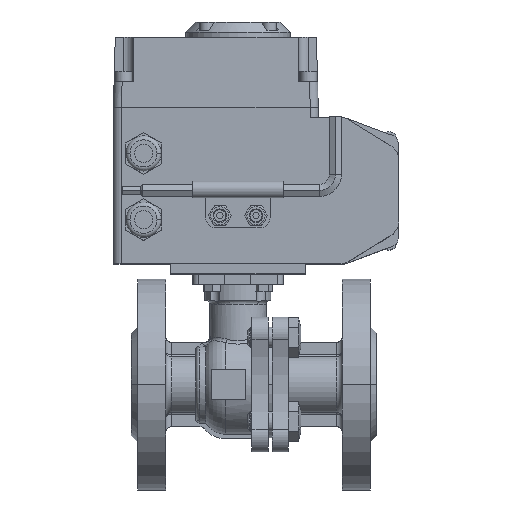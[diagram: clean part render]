
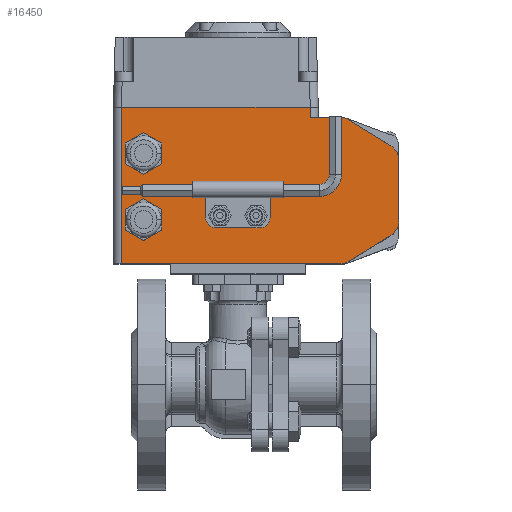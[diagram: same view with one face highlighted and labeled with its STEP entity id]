
A CAD part, top view. The second image highlights one B-rep face of the part: STEP entity #16450.
In plain terms, the highlighted planar face has unit normal (0, 0, 1).
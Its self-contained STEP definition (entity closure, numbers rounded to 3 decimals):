
#12117=CARTESIAN_POINT('',(61.749,28.5,0.));
#12118=DIRECTION('',(0.,0.,1.));
#12119=DIRECTION('',(0.521,0.853,0.));
#12120=AXIS2_PLACEMENT_3D('',#12117,#12118,#12119);
#12122=DIRECTION('',(-0.853,0.521,0.));
#12123=VECTOR('',#12122,24.905);
#12124=CARTESIAN_POINT('',(87.172,22.34,0.));
#12125=LINE('',#12124,#12123);
#12126=CARTESIAN_POINT('',(83.,15.513,0.));
#12127=DIRECTION('',(0.,0.,1.));
#12128=DIRECTION('',(1.,0.,0.));
#12129=AXIS2_PLACEMENT_3D('',#12126,#12127,#12128);
#12131=DIRECTION('',(0.,1.,0.));
#12132=VECTOR('',#12131,31.027);
#12133=CARTESIAN_POINT('',(91.,-15.513,0.));
#12134=LINE('',#12133,#12132);
#12135=CARTESIAN_POINT('',(83.,-15.513,0.));
#12136=DIRECTION('',(0.,0.,1.));
#12137=DIRECTION('',(0.521,-0.853,0.));
#12138=AXIS2_PLACEMENT_3D('',#12135,#12136,#12137);
#12140=DIRECTION('',(0.853,0.521,0.));
#12141=VECTOR('',#12140,24.905);
#12142=CARTESIAN_POINT('',(65.921,-35.326,0.));
#12143=LINE('',#12142,#12141);
#12144=CARTESIAN_POINT('',(61.749,-28.5,0.));
#12145=DIRECTION('',(0.,0.,1.));
#12146=DIRECTION('',(0.,-1.,0.));
#12147=AXIS2_PLACEMENT_3D('',#12144,#12145,#12146);
#12149=DIRECTION('',(1.,0.,0.));
#12150=VECTOR('',#12149,108.749);
#12151=CARTESIAN_POINT('',(-47.,-36.5,0.));
#12152=LINE('',#12151,#12150);
#12153=DIRECTION('',(-1.,0.,0.));
#12154=VECTOR('',#12153,94.);
#12155=CARTESIAN_POINT('',(47.,41.5,0.));
#12156=LINE('',#12155,#12154);
#12157=DIRECTION('',(0.,1.,0.));
#12158=VECTOR('',#12157,5.);
#12159=CARTESIAN_POINT('',(47.,36.5,0.));
#12160=LINE('',#12159,#12158);
#12161=DIRECTION('',(0.866,-0.5,0.));
#12162=VECTOR('',#12161,10.392);
#12163=CARTESIAN_POINT('',(-45.,-19.696,0.));
#12164=LINE('',#12163,#12162);
#12165=DIRECTION('',(0.866,0.5,0.));
#12166=VECTOR('',#12165,10.392);
#12167=CARTESIAN_POINT('',(-36.,-24.892,0.));
#12168=LINE('',#12167,#12166);
#12169=DIRECTION('',(0.,1.,0.));
#12170=VECTOR('',#12169,10.392);
#12171=CARTESIAN_POINT('',(-27.,-19.696,0.));
#12172=LINE('',#12171,#12170);
#12173=DIRECTION('',(-0.866,0.5,0.));
#12174=VECTOR('',#12173,10.392);
#12175=CARTESIAN_POINT('',(-27.,-9.304,0.));
#12176=LINE('',#12175,#12174);
#12177=DIRECTION('',(-0.866,-0.5,0.));
#12178=VECTOR('',#12177,10.392);
#12179=CARTESIAN_POINT('',(-36.,-4.108,0.));
#12180=LINE('',#12179,#12178);
#12181=DIRECTION('',(0.,-1.,0.));
#12182=VECTOR('',#12181,10.392);
#12183=CARTESIAN_POINT('',(-45.,-9.304,0.));
#12184=LINE('',#12183,#12182);
#12185=DIRECTION('',(0.866,-0.5,0.));
#12186=VECTOR('',#12185,10.392);
#12187=CARTESIAN_POINT('',(-45.,13.304,0.));
#12188=LINE('',#12187,#12186);
#12189=DIRECTION('',(0.866,0.5,0.));
#12190=VECTOR('',#12189,10.392);
#12191=CARTESIAN_POINT('',(-36.,8.108,0.));
#12192=LINE('',#12191,#12190);
#12193=DIRECTION('',(0.,1.,0.));
#12194=VECTOR('',#12193,10.392);
#12195=CARTESIAN_POINT('',(-27.,13.304,0.));
#12196=LINE('',#12195,#12194);
#12197=DIRECTION('',(-0.866,0.5,0.));
#12198=VECTOR('',#12197,10.392);
#12199=CARTESIAN_POINT('',(-27.,23.696,0.));
#12200=LINE('',#12199,#12198);
#12201=DIRECTION('',(-0.866,-0.5,0.));
#12202=VECTOR('',#12201,10.392);
#12203=CARTESIAN_POINT('',(-36.,28.892,0.));
#12204=LINE('',#12203,#12202);
#12205=DIRECTION('',(0.,-1.,0.));
#12206=VECTOR('',#12205,10.392);
#12207=CARTESIAN_POINT('',(-45.,23.696,0.));
#12208=LINE('',#12207,#12206);
#12209=CARTESIAN_POINT('',(2.,-12.5,0.));
#12210=DIRECTION('',(0.,0.,1.));
#12211=DIRECTION('',(1.,0.,0.));
#12212=AXIS2_PLACEMENT_3D('',#12209,#12210,#12211);
#12214=CARTESIAN_POINT('',(2.,-12.5,0.));
#12215=DIRECTION('',(0.,0.,1.));
#12216=DIRECTION('',(-1.,0.,0.));
#12217=AXIS2_PLACEMENT_3D('',#12214,#12215,#12216);
#12219=CARTESIAN_POINT('',(20.,-12.5,0.));
#12220=DIRECTION('',(0.,0.,1.));
#12221=DIRECTION('',(1.,0.,0.));
#12222=AXIS2_PLACEMENT_3D('',#12219,#12220,#12221);
#12224=CARTESIAN_POINT('',(20.,-12.5,0.));
#12225=DIRECTION('',(0.,0.,1.));
#12226=DIRECTION('',(-1.,0.,0.));
#12227=AXIS2_PLACEMENT_3D('',#12224,#12225,#12226);
#12703=DIRECTION('',(-1.,0.,0.));
#12704=VECTOR('',#12703,14.749);
#12705=CARTESIAN_POINT('',(61.749,36.5,0.));
#12706=LINE('',#12705,#12704);
#12784=DIRECTION('',(0.,-1.,0.));
#12785=VECTOR('',#12784,78.);
#12786=CARTESIAN_POINT('',(-47.,41.5,0.));
#12787=LINE('',#12786,#12785);
#15391=CARTESIAN_POINT('',(-47.,-36.5,0.));
#15393=VERTEX_POINT('',#15391);
#15396=CARTESIAN_POINT('',(-47.,41.5,0.));
#15398=VERTEX_POINT('',#15396);
#15407=CARTESIAN_POINT('',(47.,41.5,0.));
#15409=VERTEX_POINT('',#15407);
#15413=CARTESIAN_POINT('',(47.,36.5,0.));
#15414=VERTEX_POINT('',#15413);
#15423=CARTESIAN_POINT('',(65.921,35.326,0.));
#15424=CARTESIAN_POINT('',(61.749,36.5,0.));
#15425=VERTEX_POINT('',#15423);
#15426=VERTEX_POINT('',#15424);
#15427=CARTESIAN_POINT('',(91.,15.513,0.));
#15428=CARTESIAN_POINT('',(87.172,22.34,0.));
#15429=VERTEX_POINT('',#15427);
#15430=VERTEX_POINT('',#15428);
#15431=CARTESIAN_POINT('',(87.172,-22.34,0.));
#15432=CARTESIAN_POINT('',(91.,-15.513,0.));
#15433=VERTEX_POINT('',#15431);
#15434=VERTEX_POINT('',#15432);
#15435=CARTESIAN_POINT('',(61.749,-36.5,0.));
#15436=CARTESIAN_POINT('',(65.921,-35.326,0.));
#15437=VERTEX_POINT('',#15435);
#15438=VERTEX_POINT('',#15436);
#16127=CARTESIAN_POINT('',(-45.,-19.696,0.));
#16128=CARTESIAN_POINT('',(-36.,-24.892,0.));
#16129=VERTEX_POINT('',#16127);
#16130=VERTEX_POINT('',#16128);
#16131=CARTESIAN_POINT('',(-27.,-19.696,0.));
#16132=VERTEX_POINT('',#16131);
#16133=CARTESIAN_POINT('',(-27.,-9.304,0.));
#16134=VERTEX_POINT('',#16133);
#16135=CARTESIAN_POINT('',(-36.,-4.108,0.));
#16136=VERTEX_POINT('',#16135);
#16137=CARTESIAN_POINT('',(-45.,-9.304,0.));
#16138=VERTEX_POINT('',#16137);
#16211=CARTESIAN_POINT('',(-45.,13.304,0.));
#16212=VERTEX_POINT('',#16211);
#16213=CARTESIAN_POINT('',(-36.,8.108,0.));
#16214=VERTEX_POINT('',#16213);
#16215=CARTESIAN_POINT('',(-27.,13.304,0.));
#16216=VERTEX_POINT('',#16215);
#16217=CARTESIAN_POINT('',(-27.,23.696,0.));
#16218=VERTEX_POINT('',#16217);
#16219=CARTESIAN_POINT('',(-36.,28.892,0.));
#16220=VERTEX_POINT('',#16219);
#16221=CARTESIAN_POINT('',(-45.,23.696,0.));
#16222=VERTEX_POINT('',#16221);
#16291=CARTESIAN_POINT('',(5.,-12.5,0.));
#16292=CARTESIAN_POINT('',(-1.,-12.5,0.));
#16293=VERTEX_POINT('',#16291);
#16294=VERTEX_POINT('',#16292);
#16295=CARTESIAN_POINT('',(23.,-12.5,0.));
#16296=CARTESIAN_POINT('',(17.,-12.5,0.));
#16297=VERTEX_POINT('',#16295);
#16298=VERTEX_POINT('',#16296);
#16379=CARTESIAN_POINT('',(0.,0.,0.));
#16380=DIRECTION('',(0.,0.,1.));
#16381=DIRECTION('',(1.,0.,0.));
#16382=AXIS2_PLACEMENT_3D('',#16379,#16380,#16381);
#16383=PLANE('',#16382);
#16385=ORIENTED_EDGE('',*,*,#16384,.F.);
#16387=ORIENTED_EDGE('',*,*,#16386,.F.);
#16389=ORIENTED_EDGE('',*,*,#16388,.F.);
#16391=ORIENTED_EDGE('',*,*,#16390,.F.);
#16393=ORIENTED_EDGE('',*,*,#16392,.F.);
#16395=ORIENTED_EDGE('',*,*,#16394,.F.);
#16397=ORIENTED_EDGE('',*,*,#16396,.F.);
#16399=ORIENTED_EDGE('',*,*,#16398,.F.);
#16401=ORIENTED_EDGE('',*,*,#16400,.F.);
#16403=ORIENTED_EDGE('',*,*,#16402,.F.);
#16405=ORIENTED_EDGE('',*,*,#16404,.F.);
#16407=ORIENTED_EDGE('',*,*,#16406,.F.);
#16408=EDGE_LOOP('',(#16385,#16387,#16389,#16391,#16393,#16395,#16397,#16399,
#16401,#16403,#16405,#16407));
#16409=FACE_OUTER_BOUND('',#16408,.F.);
#16411=ORIENTED_EDGE('',*,*,#16410,.T.);
#16413=ORIENTED_EDGE('',*,*,#16412,.T.);
#16415=ORIENTED_EDGE('',*,*,#16414,.T.);
#16417=ORIENTED_EDGE('',*,*,#16416,.T.);
#16419=ORIENTED_EDGE('',*,*,#16418,.T.);
#16421=ORIENTED_EDGE('',*,*,#16420,.T.);
#16422=EDGE_LOOP('',(#16411,#16413,#16415,#16417,#16419,#16421));
#16423=FACE_BOUND('',#16422,.F.);
#16425=ORIENTED_EDGE('',*,*,#16424,.T.);
#16427=ORIENTED_EDGE('',*,*,#16426,.T.);
#16429=ORIENTED_EDGE('',*,*,#16428,.T.);
#16431=ORIENTED_EDGE('',*,*,#16430,.T.);
#16433=ORIENTED_EDGE('',*,*,#16432,.T.);
#16435=ORIENTED_EDGE('',*,*,#16434,.T.);
#16436=EDGE_LOOP('',(#16425,#16427,#16429,#16431,#16433,#16435));
#16437=FACE_BOUND('',#16436,.F.);
#16439=ORIENTED_EDGE('',*,*,#16438,.T.);
#16441=ORIENTED_EDGE('',*,*,#16440,.T.);
#16442=EDGE_LOOP('',(#16439,#16441));
#16443=FACE_BOUND('',#16442,.F.);
#16445=ORIENTED_EDGE('',*,*,#16444,.T.);
#16447=ORIENTED_EDGE('',*,*,#16446,.T.);
#16448=EDGE_LOOP('',(#16445,#16447));
#16449=FACE_BOUND('',#16448,.F.);
#16450=ADVANCED_FACE('',(#16409,#16423,#16437,#16443,#16449),#16383,.T.);
#12121=CIRCLE('',#12120,8.);
#12130=CIRCLE('',#12129,8.);
#12139=CIRCLE('',#12138,8.);
#12148=CIRCLE('',#12147,8.);
#12213=CIRCLE('',#12212,3.);
#12218=CIRCLE('',#12217,3.);
#12223=CIRCLE('',#12222,3.);
#12228=CIRCLE('',#12227,3.);
#16384=EDGE_CURVE('',#15425,#15426,#12121,.T.);
#16386=EDGE_CURVE('',#15430,#15425,#12125,.T.);
#16388=EDGE_CURVE('',#15429,#15430,#12130,.T.);
#16390=EDGE_CURVE('',#15434,#15429,#12134,.T.);
#16392=EDGE_CURVE('',#15433,#15434,#12139,.T.);
#16394=EDGE_CURVE('',#15438,#15433,#12143,.T.);
#16396=EDGE_CURVE('',#15437,#15438,#12148,.T.);
#16398=EDGE_CURVE('',#15393,#15437,#12152,.T.);
#16400=EDGE_CURVE('',#15398,#15393,#12787,.T.);
#16402=EDGE_CURVE('',#15409,#15398,#12156,.T.);
#16404=EDGE_CURVE('',#15414,#15409,#12160,.T.);
#16406=EDGE_CURVE('',#15426,#15414,#12706,.T.);
#16410=EDGE_CURVE('',#16129,#16130,#12164,.T.);
#16412=EDGE_CURVE('',#16130,#16132,#12168,.T.);
#16414=EDGE_CURVE('',#16132,#16134,#12172,.T.);
#16416=EDGE_CURVE('',#16134,#16136,#12176,.T.);
#16418=EDGE_CURVE('',#16136,#16138,#12180,.T.);
#16420=EDGE_CURVE('',#16138,#16129,#12184,.T.);
#16424=EDGE_CURVE('',#16212,#16214,#12188,.T.);
#16426=EDGE_CURVE('',#16214,#16216,#12192,.T.);
#16428=EDGE_CURVE('',#16216,#16218,#12196,.T.);
#16430=EDGE_CURVE('',#16218,#16220,#12200,.T.);
#16432=EDGE_CURVE('',#16220,#16222,#12204,.T.);
#16434=EDGE_CURVE('',#16222,#16212,#12208,.T.);
#16438=EDGE_CURVE('',#16293,#16294,#12213,.T.);
#16440=EDGE_CURVE('',#16294,#16293,#12218,.T.);
#16444=EDGE_CURVE('',#16297,#16298,#12223,.T.);
#16446=EDGE_CURVE('',#16298,#16297,#12228,.T.);
